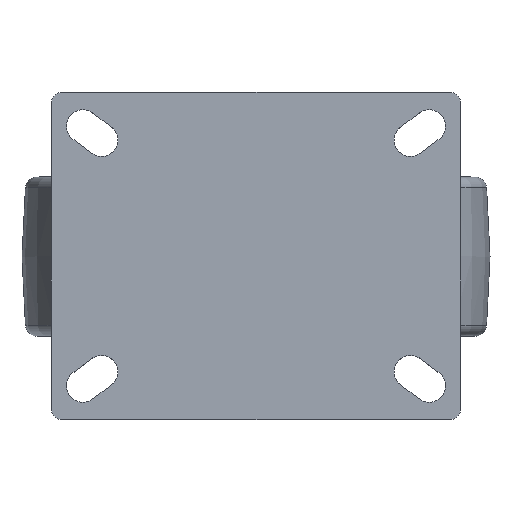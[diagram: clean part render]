
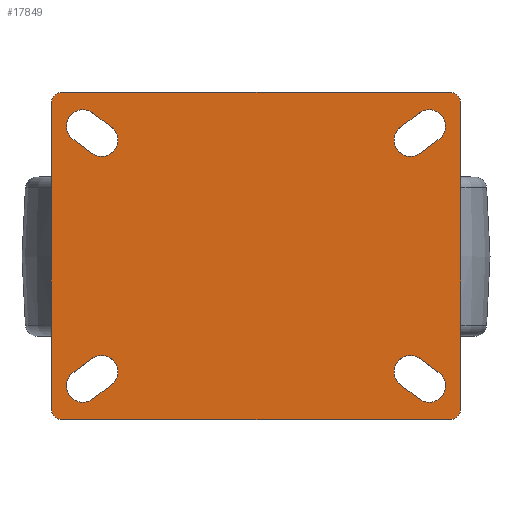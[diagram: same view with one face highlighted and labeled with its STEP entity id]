
A CAD part, top view. The second image highlights one B-rep face of the part: STEP entity #17849.
In plain terms, the highlighted planar face has unit normal (0, 0, 1).
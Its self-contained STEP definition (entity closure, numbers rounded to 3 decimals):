
#178=FACE_BOUND('',#3845,.T.);
#179=FACE_BOUND('',#3846,.T.);
#180=FACE_BOUND('',#3847,.T.);
#181=FACE_BOUND('',#3848,.T.);
#1850=PLANE('',#18659);
#2794=FACE_OUTER_BOUND('',#3844,.T.);
#3844=EDGE_LOOP('',(#16663,#16664,#16665,#16666,#16667,#16668,#16669,#16670));
#3845=EDGE_LOOP('',(#16671,#16672,#16673,#16674));
#3846=EDGE_LOOP('',(#16675,#16676,#16677,#16678));
#3847=EDGE_LOOP('',(#16679,#16680,#16681,#16682));
#3848=EDGE_LOOP('',(#16683,#16684,#16685,#16686));
#4101=CIRCLE('',#18625,7.);
#4102=CIRCLE('',#18628,7.);
#4103=CIRCLE('',#18631,7.);
#4104=CIRCLE('',#18634,7.);
#4105=CIRCLE('',#18637,7.);
#4106=CIRCLE('',#18640,7.);
#4107=CIRCLE('',#18643,7.);
#4108=CIRCLE('',#18646,7.);
#4109=CIRCLE('',#18648,5.);
#4110=CIRCLE('',#18651,5.);
#4111=CIRCLE('',#18654,5.);
#4112=CIRCLE('',#18657,5.);
#5602=LINE('',#30728,#7137);
#5605=LINE('',#30736,#7140);
#5608=LINE('',#30744,#7143);
#5611=LINE('',#30752,#7146);
#5614=LINE('',#30760,#7149);
#5617=LINE('',#30768,#7152);
#5620=LINE('',#30776,#7155);
#5623=LINE('',#30784,#7158);
#5627=LINE('',#30796,#7162);
#5630=LINE('',#30804,#7165);
#5633=LINE('',#30812,#7168);
#5636=LINE('',#30819,#7171);
#7137=VECTOR('',#21621,10.);
#7140=VECTOR('',#21630,10.);
#7143=VECTOR('',#21639,10.);
#7146=VECTOR('',#21648,10.);
#7149=VECTOR('',#21657,10.);
#7152=VECTOR('',#21666,10.);
#7155=VECTOR('',#21675,10.);
#7158=VECTOR('',#21684,10.);
#7162=VECTOR('',#21698,10.);
#7165=VECTOR('',#21707,10.);
#7168=VECTOR('',#21716,10.);
#7171=VECTOR('',#21725,10.);
#8894=VERTEX_POINT('',#30725);
#8895=VERTEX_POINT('',#30727);
#8896=VERTEX_POINT('',#30731);
#8897=VERTEX_POINT('',#30735);
#8898=VERTEX_POINT('',#30741);
#8899=VERTEX_POINT('',#30743);
#8900=VERTEX_POINT('',#30747);
#8901=VERTEX_POINT('',#30751);
#8902=VERTEX_POINT('',#30757);
#8903=VERTEX_POINT('',#30759);
#8904=VERTEX_POINT('',#30763);
#8905=VERTEX_POINT('',#30767);
#8906=VERTEX_POINT('',#30773);
#8907=VERTEX_POINT('',#30775);
#8908=VERTEX_POINT('',#30779);
#8909=VERTEX_POINT('',#30783);
#8910=VERTEX_POINT('',#30789);
#8911=VERTEX_POINT('',#30791);
#8912=VERTEX_POINT('',#30795);
#8913=VERTEX_POINT('',#30799);
#8914=VERTEX_POINT('',#30803);
#8915=VERTEX_POINT('',#30807);
#8916=VERTEX_POINT('',#30811);
#8917=VERTEX_POINT('',#30815);
#11472=EDGE_CURVE('',#8895,#8894,#5602,.T.);
#11474=EDGE_CURVE('',#8896,#8895,#4101,.T.);
#11476=EDGE_CURVE('',#8897,#8896,#5605,.T.);
#11478=EDGE_CURVE('',#8894,#8897,#4102,.T.);
#11480=EDGE_CURVE('',#8899,#8898,#5608,.T.);
#11482=EDGE_CURVE('',#8900,#8899,#4103,.T.);
#11484=EDGE_CURVE('',#8901,#8900,#5611,.T.);
#11486=EDGE_CURVE('',#8898,#8901,#4104,.T.);
#11488=EDGE_CURVE('',#8903,#8902,#5614,.T.);
#11490=EDGE_CURVE('',#8904,#8903,#4105,.T.);
#11492=EDGE_CURVE('',#8905,#8904,#5617,.T.);
#11494=EDGE_CURVE('',#8902,#8905,#4106,.T.);
#11496=EDGE_CURVE('',#8907,#8906,#5620,.T.);
#11498=EDGE_CURVE('',#8908,#8907,#4107,.T.);
#11500=EDGE_CURVE('',#8909,#8908,#5623,.T.);
#11502=EDGE_CURVE('',#8906,#8909,#4108,.T.);
#11504=EDGE_CURVE('',#8911,#8910,#4109,.T.);
#11506=EDGE_CURVE('',#8912,#8911,#5627,.T.);
#11508=EDGE_CURVE('',#8913,#8912,#4110,.T.);
#11510=EDGE_CURVE('',#8914,#8913,#5630,.T.);
#11512=EDGE_CURVE('',#8915,#8914,#4111,.T.);
#11514=EDGE_CURVE('',#8916,#8915,#5633,.T.);
#11516=EDGE_CURVE('',#8917,#8916,#4112,.T.);
#11518=EDGE_CURVE('',#8910,#8917,#5636,.T.);
#16663=ORIENTED_EDGE('',*,*,#11518,.T.);
#16664=ORIENTED_EDGE('',*,*,#11516,.T.);
#16665=ORIENTED_EDGE('',*,*,#11514,.T.);
#16666=ORIENTED_EDGE('',*,*,#11512,.T.);
#16667=ORIENTED_EDGE('',*,*,#11510,.T.);
#16668=ORIENTED_EDGE('',*,*,#11508,.T.);
#16669=ORIENTED_EDGE('',*,*,#11506,.T.);
#16670=ORIENTED_EDGE('',*,*,#11504,.T.);
#16671=ORIENTED_EDGE('',*,*,#11502,.T.);
#16672=ORIENTED_EDGE('',*,*,#11500,.T.);
#16673=ORIENTED_EDGE('',*,*,#11498,.T.);
#16674=ORIENTED_EDGE('',*,*,#11496,.T.);
#16675=ORIENTED_EDGE('',*,*,#11494,.T.);
#16676=ORIENTED_EDGE('',*,*,#11492,.T.);
#16677=ORIENTED_EDGE('',*,*,#11490,.T.);
#16678=ORIENTED_EDGE('',*,*,#11488,.T.);
#16679=ORIENTED_EDGE('',*,*,#11486,.T.);
#16680=ORIENTED_EDGE('',*,*,#11484,.T.);
#16681=ORIENTED_EDGE('',*,*,#11482,.T.);
#16682=ORIENTED_EDGE('',*,*,#11480,.T.);
#16683=ORIENTED_EDGE('',*,*,#11478,.T.);
#16684=ORIENTED_EDGE('',*,*,#11476,.T.);
#16685=ORIENTED_EDGE('',*,*,#11474,.T.);
#16686=ORIENTED_EDGE('',*,*,#11472,.T.);
#17849=ADVANCED_FACE('',(#2794,#178,#179,#180,#181),#1850,.T.);
#18625=AXIS2_PLACEMENT_3D('',#30732,#21625,#21626);
#18628=AXIS2_PLACEMENT_3D('',#30739,#21634,#21635);
#18631=AXIS2_PLACEMENT_3D('',#30748,#21643,#21644);
#18634=AXIS2_PLACEMENT_3D('',#30755,#21652,#21653);
#18637=AXIS2_PLACEMENT_3D('',#30764,#21661,#21662);
#18640=AXIS2_PLACEMENT_3D('',#30771,#21670,#21671);
#18643=AXIS2_PLACEMENT_3D('',#30780,#21679,#21680);
#18646=AXIS2_PLACEMENT_3D('',#30787,#21688,#21689);
#18648=AXIS2_PLACEMENT_3D('',#30792,#21693,#21694);
#18651=AXIS2_PLACEMENT_3D('',#30800,#21702,#21703);
#18654=AXIS2_PLACEMENT_3D('',#30808,#21711,#21712);
#18657=AXIS2_PLACEMENT_3D('',#30816,#21720,#21721);
#18659=AXIS2_PLACEMENT_3D('',#30820,#21726,#21727);
#21621=DIRECTION('',(0.8,-0.6,0.));
#21625=DIRECTION('center_axis',(0.,0.,-1.));
#21626=DIRECTION('ref_axis',(-0.6,-0.8,0.));
#21630=DIRECTION('',(-0.8,0.6,0.));
#21634=DIRECTION('center_axis',(0.,0.,-1.));
#21635=DIRECTION('ref_axis',(0.6,0.8,0.));
#21639=DIRECTION('',(-0.8,-0.6,0.));
#21643=DIRECTION('center_axis',(0.,0.,-1.));
#21644=DIRECTION('ref_axis',(-0.6,0.8,0.));
#21648=DIRECTION('',(0.8,0.6,0.));
#21652=DIRECTION('center_axis',(0.,0.,-1.));
#21653=DIRECTION('ref_axis',(0.6,-0.8,0.));
#21657=DIRECTION('',(-0.8,0.6,0.));
#21661=DIRECTION('center_axis',(0.,0.,-1.));
#21662=DIRECTION('ref_axis',(0.6,0.8,0.));
#21666=DIRECTION('',(0.8,-0.6,0.));
#21670=DIRECTION('center_axis',(0.,0.,-1.));
#21671=DIRECTION('ref_axis',(-0.6,-0.8,0.));
#21675=DIRECTION('',(-0.8,-0.6,0.));
#21679=DIRECTION('center_axis',(0.,0.,-1.));
#21680=DIRECTION('ref_axis',(-0.6,0.8,0.));
#21684=DIRECTION('',(0.8,0.6,0.));
#21688=DIRECTION('center_axis',(0.,0.,-1.));
#21689=DIRECTION('ref_axis',(0.6,-0.8,0.));
#21693=DIRECTION('center_axis',(0.,0.,1.));
#21694=DIRECTION('ref_axis',(-1.,0.,0.));
#21698=DIRECTION('',(0.,-1.,0.));
#21702=DIRECTION('center_axis',(0.,0.,1.));
#21703=DIRECTION('ref_axis',(0.,1.,0.));
#21707=DIRECTION('',(-1.,0.,0.));
#21711=DIRECTION('center_axis',(0.,0.,1.));
#21712=DIRECTION('ref_axis',(1.,0.,0.));
#21716=DIRECTION('',(0.,1.,0.));
#21720=DIRECTION('center_axis',(0.,0.,1.));
#21721=DIRECTION('ref_axis',(0.,-1.,0.));
#21725=DIRECTION('',(1.,0.,0.));
#21726=DIRECTION('center_axis',(0.,0.,1.));
#21727=DIRECTION('ref_axis',(1.,0.,0.));
#30725=CARTESIAN_POINT('',(78.2,-49.9,10.));
#30727=CARTESIAN_POINT('',(70.2,-43.9,10.));
#30728=CARTESIAN_POINT('',(70.2,-43.9,10.));
#30731=CARTESIAN_POINT('',(61.8,-55.1,10.));
#30732=CARTESIAN_POINT('Origin',(66.,-49.5,10.));
#30735=CARTESIAN_POINT('',(69.8,-61.1,10.));
#30736=CARTESIAN_POINT('',(69.8,-61.1,10.));
#30739=CARTESIAN_POINT('Origin',(74.,-55.5,10.));
#30741=CARTESIAN_POINT('',(70.2,43.9,10.));
#30743=CARTESIAN_POINT('',(78.2,49.9,10.));
#30744=CARTESIAN_POINT('',(78.2,49.9,10.));
#30747=CARTESIAN_POINT('',(69.8,61.1,10.));
#30748=CARTESIAN_POINT('Origin',(74.,55.5,10.));
#30751=CARTESIAN_POINT('',(61.8,55.1,10.));
#30752=CARTESIAN_POINT('',(61.8,55.1,10.));
#30755=CARTESIAN_POINT('Origin',(66.,49.5,10.));
#30757=CARTESIAN_POINT('',(-78.2,49.9,10.));
#30759=CARTESIAN_POINT('',(-70.2,43.9,10.));
#30760=CARTESIAN_POINT('',(-70.2,43.9,10.));
#30763=CARTESIAN_POINT('',(-61.8,55.1,10.));
#30764=CARTESIAN_POINT('Origin',(-66.,49.5,10.));
#30767=CARTESIAN_POINT('',(-69.8,61.1,10.));
#30768=CARTESIAN_POINT('',(-69.8,61.1,10.));
#30771=CARTESIAN_POINT('Origin',(-74.,55.5,10.));
#30773=CARTESIAN_POINT('',(-69.8,-61.1,10.));
#30775=CARTESIAN_POINT('',(-61.8,-55.1,10.));
#30776=CARTESIAN_POINT('',(-61.8,-55.1,10.));
#30779=CARTESIAN_POINT('',(-70.2,-43.9,10.));
#30780=CARTESIAN_POINT('Origin',(-66.,-49.5,10.));
#30783=CARTESIAN_POINT('',(-78.2,-49.9,10.));
#30784=CARTESIAN_POINT('',(-78.2,-49.9,10.));
#30787=CARTESIAN_POINT('Origin',(-74.,-55.5,10.));
#30789=CARTESIAN_POINT('',(-82.5,-70.,10.));
#30791=CARTESIAN_POINT('',(-87.5,-65.,10.));
#30792=CARTESIAN_POINT('Origin',(-82.5,-65.,10.));
#30795=CARTESIAN_POINT('',(-87.5,65.,10.));
#30796=CARTESIAN_POINT('',(-87.5,65.,10.));
#30799=CARTESIAN_POINT('',(-82.5,70.,10.));
#30800=CARTESIAN_POINT('Origin',(-82.5,65.,10.));
#30803=CARTESIAN_POINT('',(82.5,70.,10.));
#30804=CARTESIAN_POINT('',(82.5,70.,10.));
#30807=CARTESIAN_POINT('',(87.5,65.,10.));
#30808=CARTESIAN_POINT('Origin',(82.5,65.,10.));
#30811=CARTESIAN_POINT('',(87.5,-65.,10.));
#30812=CARTESIAN_POINT('',(87.5,-65.,10.));
#30815=CARTESIAN_POINT('',(82.5,-70.,10.));
#30816=CARTESIAN_POINT('Origin',(82.5,-65.,10.));
#30819=CARTESIAN_POINT('',(-82.5,-70.,10.));
#30820=CARTESIAN_POINT('Origin',(0.,0.,
10.));
